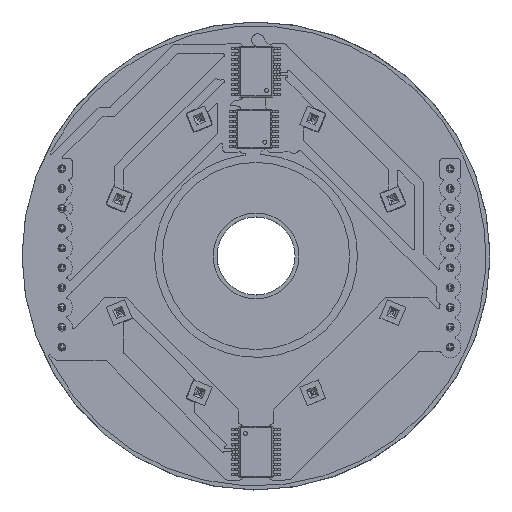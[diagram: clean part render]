
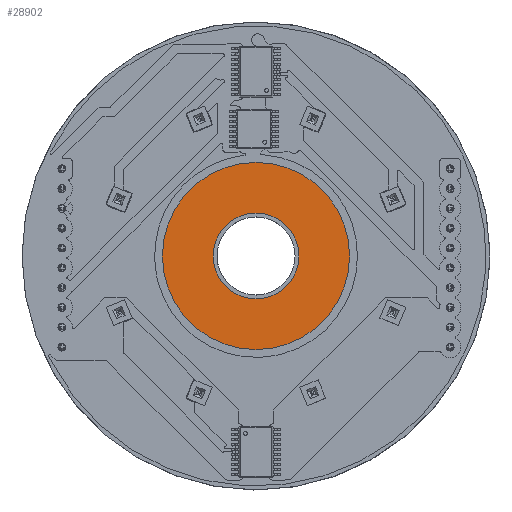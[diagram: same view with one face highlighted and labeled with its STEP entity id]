
A CAD part, top view. The second image highlights one B-rep face of the part: STEP entity #28902.
In plain terms, the highlighted planar face has unit normal (0, 0, 1).
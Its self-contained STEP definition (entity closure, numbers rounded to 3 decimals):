
#28831 = VERTEX_POINT('',#28832);
#28832 = CARTESIAN_POINT('',(189.8,-101.6,1.545));
#28838 = EDGE_CURVE('',#28831,#28831,#28839,.T.);
#28839 = CIRCLE('',#28840,12.);
#28840 = AXIS2_PLACEMENT_3D('',#28841,#28842,#28843);
#28841 = CARTESIAN_POINT('',(177.8,-101.6,1.545));
#28842 = DIRECTION('',(0.,0.,1.));
#28843 = DIRECTION('',(1.,0.,-0.));
#28864 = VERTEX_POINT('',#28865);
#28865 = CARTESIAN_POINT('',(183.305,-101.6,1.545));
#28871 = EDGE_CURVE('',#28864,#28864,#28872,.T.);
#28872 = CIRCLE('',#28873,5.505);
#28873 = AXIS2_PLACEMENT_3D('',#28874,#28875,#28876);
#28874 = CARTESIAN_POINT('',(177.8,-101.6,1.545));
#28875 = DIRECTION('',(0.,0.,1.));
#28876 = DIRECTION('',(1.,0.,-0.));
#28902 = ADVANCED_FACE('',(#28903,#28906),#28909,.T.);
#28903 = FACE_BOUND('',#28904,.T.);
#28904 = EDGE_LOOP('',(#28905));
#28905 = ORIENTED_EDGE('',*,*,#28838,.T.);
#28906 = FACE_BOUND('',#28907,.F.);
#28907 = EDGE_LOOP('',(#28908));
#28908 = ORIENTED_EDGE('',*,*,#28871,.T.);
#28909 = PLANE('',#28910);
#28910 = AXIS2_PLACEMENT_3D('',#28911,#28912,#28913);
#28911 = CARTESIAN_POINT('',(0.,0.,1.545));
#28912 = DIRECTION('',(0.,0.,1.));
#28913 = DIRECTION('',(1.,0.,-0.));
